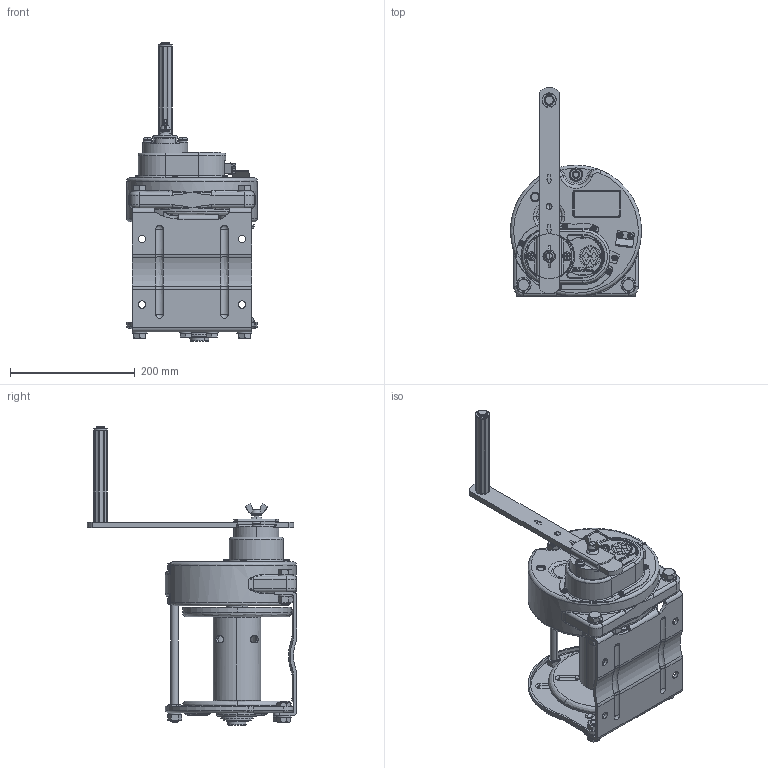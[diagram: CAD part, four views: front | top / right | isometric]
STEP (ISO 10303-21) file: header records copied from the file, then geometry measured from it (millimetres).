
FILE_DESCRIPTION( (''), '2;1');
FILE_NAME ('GM-5.stp','2023-12-20T17:00:13',(''),(''),'spGate 19.8.2 (****-****-****-****)','','');
FILE_SCHEMA (('AUTOMOTIVE_DESIGN'));
Length unit declared in the file: millimetre
Products named in the file (3): Assembly; GM-5-prt0; GM-5-prt1
Assembly tree (2 placements, depth 2):
  Assembly
    GM-5-prt0
    GM-5-prt1
Bounding box: 209.96 x 335.43 x 478.1 mm (x, y, z)
Volume: 3870136.4 mm3; surface area: 651046.8 mm2
Topology: 2 solids, 2 shells, 2625 faces, 6752 edges, 4231 vertices
Faces by surface type: plane 1235, cylinder 867, bspline 459, sphere 64
Entity records: 144007 total; most frequent: CARTESIAN_POINT 27990, ORIENTED_EDGE 13400, DIRECTION 12889, COLOUR_RGB 9327, PRESENTATION_STYLE_ASSIGNMENT 9327, STYLED_ITEM 9327, EDGE_CURVE 6700, DRAUGHTING_PRE_DEFINED_CURVE_FONT 6700
